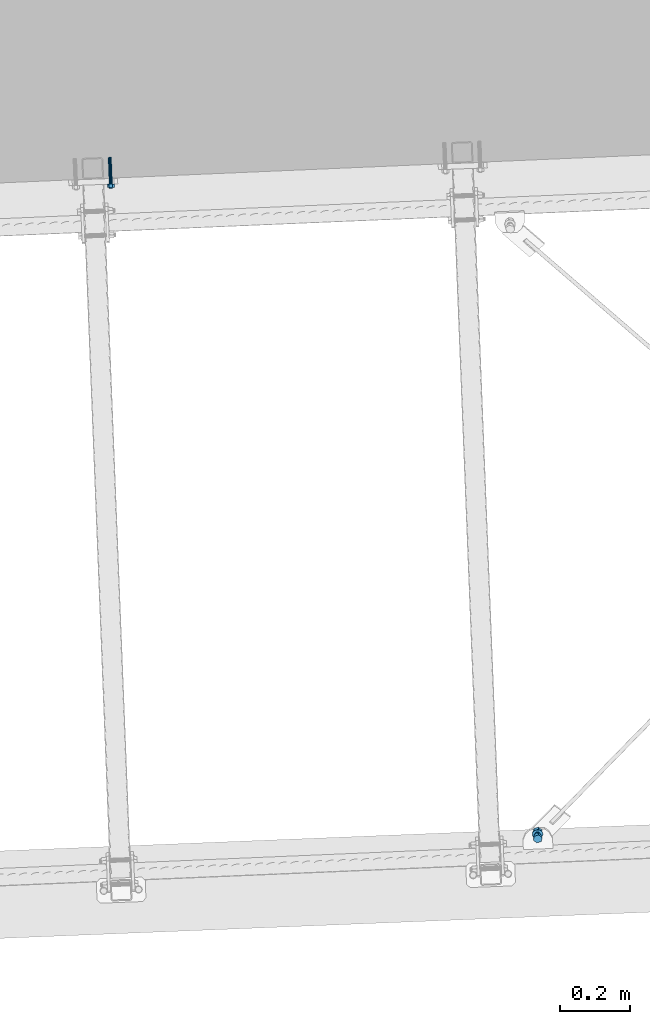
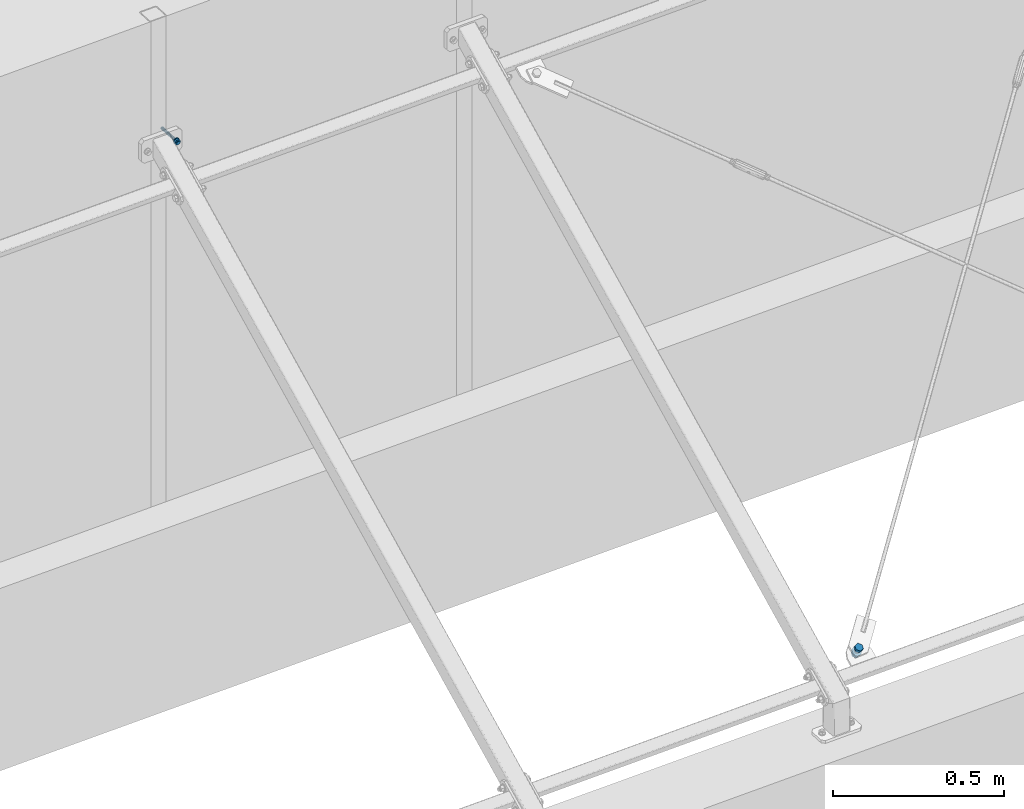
# One storey, part 265 of 288: 2 mechanical fasteners.
"""IFC2X3 building model written with IfcOpenShell, lengths in millimetres."""

import ifcopenshell
import ifcopenshell.guid

model = None  # the IFC model being written
_history = None  # IfcOwnerHistory: only IFC2X3 demands one
_inside = {}  # id of a spatial element -> (the spatial element, [elements in it])
_under = {}  # id of a project, library or spatial element -> (it, [spatial elements below it])
_declared = {}  # id of a project -> (the project, [libraries it declares])
_typed = {}  # id of a type object -> (the type object, [elements of that type])
_made_of = {}  # id of a material, layer set ... -> (it, [elements and type objects made of it])


def new_model(schema):
    """Start an empty IFC model of exactly this schema.

    Asked for "IFC4X3", IfcOpenShell would pick the latest addendum, in which some entities
    have other attributes; the version numbers below select the first issue.
    IFC2X3 requires an IfcOwnerHistory on every rooted entity: one is made here for all.
    """
    global model, _history
    if schema == "IFC4X3":
        model = ifcopenshell.file(schema_version=(4, 3, 0, 0))
    else:
        model = ifcopenshell.file(schema=schema)
    _inside.clear()
    _under.clear()
    _declared.clear()
    _typed.clear()
    _made_of.clear()
    _history = None
    if model.schema == "IFC2X3":
        org = make("IfcOrganization", Name="unknown")
        user = make(
            "IfcPersonAndOrganization",
            ThePerson=make("IfcPerson", FamilyName="unknown"),
            TheOrganization=org,
        )
        app = make(
            "IfcApplication",
            ApplicationDeveloper=org,
            Version="unknown",
            ApplicationFullName="unknown",
            ApplicationIdentifier="unknown",
        )
        _history = make(
            "IfcOwnerHistory",
            OwningUser=user,
            OwningApplication=app,
            ChangeAction="ADDED",
            CreationDate=0,
        )
    return model


def make(cls, **values):
    """One entity of the class cls with the attributes given. An attribute that is None is left unset."""
    return model.create_entity(
        cls, **{name: value for name, value in values.items() if value is not None}
    )


def entity(cls, *values):
    """Any entity or typed value of the class cls, its attributes in the order of the schema. None: left unset."""
    e = model.create_entity(cls)
    for i, value in enumerate(values):
        if value is not None:
            e[i] = value
    return e


def rooted(cls, **values):
    """An entity with a GlobalId (a new one), such as an element, a storey or a relation."""
    return make(cls, GlobalId=ifcopenshell.guid.new(), OwnerHistory=_history, **values)


def si_unit(unit_type, name, prefix=None):
    """IfcSIUnit, for example si_unit("LENGTHUNIT", "METRE", prefix="MILLI")."""
    return make("IfcSIUnit", UnitType=unit_type, Prefix=prefix, Name=name)


def converted_unit(unit_type, name, factor, base, dimensions=None, offset=None):
    """IfcConversionBasedUnit, such as the inch: factor (a typed value) times the base unit."""
    return make(
        "IfcConversionBasedUnit"
        if offset is None
        else "IfcConversionBasedUnitWithOffset",
        ConversionOffset=offset,
        Dimensions=None
        if dimensions is None
        else entity("IfcDimensionalExponents", *dimensions),
        UnitType=unit_type,
        Name=name,
        ConversionFactor=make(
            "IfcMeasureWithUnit", ValueComponent=factor, UnitComponent=base
        ),
    )


def assignment(units):
    """IfcUnitAssignment: the units of a project."""
    return None if units is None else make("IfcUnitAssignment", Units=units)


def point(xyz):
    """IfcCartesianPoint."""
    return None if xyz is None else make("IfcCartesianPoint", Coordinates=xyz)


def direction(xyz):
    """IfcDirection."""
    return None if xyz is None else make("IfcDirection", DirectionRatios=xyz)


def frame(location, z_axis=None, x_axis=None):
    """IfcAxis2Placement3D, a coordinate frame: its origin and axes. An axis left out is left unset."""
    return make(
        "IfcAxis2Placement3D",
        Location=point(location),
        Axis=direction(z_axis),
        RefDirection=direction(x_axis),
    )


def origin_with_axes():
    """The frame at (0, 0, 0) with the z axis (0, 0, 1) and the x axis (1, 0, 0) written out."""
    return frame((0.0, 0.0, 0.0), z_axis=(0.0, 0.0, 1.0), x_axis=(1.0, 0.0, 0.0))


def place(relative_to, where):
    """IfcLocalPlacement: puts the frame where relative to a parent placement (None: the world)."""
    return make(
        "IfcLocalPlacement", PlacementRelTo=relative_to, RelativePlacement=where
    )


def context(
    kind, dimensions, precision=None, world=None, true_north=None, identifier=None
):
    """IfcGeometricRepresentationContext, for example the 3D "Model" context."""
    return make(
        "IfcGeometricRepresentationContext",
        ContextIdentifier=identifier,
        ContextType=kind,
        CoordinateSpaceDimension=dimensions,
        Precision=precision,
        WorldCoordinateSystem=world,
        TrueNorth=true_north,
    )


def project(units=None, contexts=None):
    """IfcProject with its units and contexts."""
    return rooted(
        "IfcProject",
        Name="project",
        RepresentationContexts=contexts,
        UnitsInContext=assignment(units),
    )


def spatial(cls, under=None, at=None, **own):
    """A site, building, storey or space (cls), placed at a placement, below another one or the project."""
    s = rooted(cls, ObjectPlacement=at, **own)
    if under is not None:
        _under.setdefault(under.id(), (under, []))[1].append(s)
    return s


def faces_of(points, faces, orient=None, outer=None):
    """IfcFace entities. A face is a list of loops; a loop is a list of indices into points, from 0.

    orient and outer hold one flag for each loop. By default every Orientation is true, the
    first loop of a face is its IfcFaceOuterBound and the others are IfcFaceBound.
    """
    made = []
    for i, loops in enumerate(faces):
        bounds = []
        for j, loop in enumerate(loops):
            is_outer = j == 0 if outer is None else outer[i][j]
            bounds.append(
                make(
                    "IfcFaceOuterBound" if is_outer else "IfcFaceBound",
                    Bound=make("IfcPolyLoop", Polygon=[points[k] for k in loop]),
                    Orientation=True if orient is None else orient[i][j],
                )
            )
        made.append(make("IfcFace", Bounds=bounds))
    return made


def faceted_brep(points, faces, orient=None, outer=None, voids=None):
    """IfcFacetedBrep: a solid bounded by flat faces; with voids (closed shells), ...WithVoids."""
    shared = [point(p) for p in points]
    hull = make("IfcClosedShell", CfsFaces=faces_of(shared, faces, orient, outer))
    if voids is None:
        return make("IfcFacetedBrep", Outer=hull)
    return make(
        "IfcFacetedBrepWithVoids",
        Outer=hull,
        Voids=[
            make(cls, CfsFaces=faces_of(shared, fs, o, b)) for cls, fs, o, b in voids
        ],
    )


def shape(context_of_items, identifier, shape_type, items):
    """IfcShapeRepresentation: the items that make up one representation, for example the "Body"."""
    return make(
        "IfcShapeRepresentation",
        ContextOfItems=context_of_items,
        RepresentationIdentifier=identifier,
        RepresentationType=shape_type,
        Items=items,
    )


def made_of(thing, what):
    """Note that an element or type object is made of a material, layer set ...; save() writes the relation."""
    if what is not None:
        _made_of.setdefault(what.id(), (what, []))[1].append(thing)
    return thing


def element(
    cls,
    number,
    at=None,
    inside=None,
    cuts=None,
    type_object=None,
    material=None,
    context=None,
    identifier="Body",
    shape_type=None,
    held_by="IfcProductDefinitionShape",
    body=None,
    shapes=None,
    **own,
):
    """One element of the class cls, such as IfcWall. Its Tag is "e" and its number.

    at: its placement. inside: the storey or other place that contains it. cuts: it is an
    opening in that element (IfcRelVoidsElement). A single representation is given by context,
    identifier, shape_type and body (its items); several are given by shapes. held_by: the class
    of the entity that holds the representations. save() writes the other relations.
    """
    e = rooted(cls, Tag="e%d" % number, ObjectPlacement=at, **own)
    if body is not None:
        shapes = [shape(context, identifier, shape_type, body)]
    if shapes is not None:
        e.Representation = make(held_by, Representations=shapes)
    if inside is not None:
        _inside.setdefault(inside.id(), (inside, []))[1].append(e)
    if cuts is not None:
        rooted(
            "IfcRelVoidsElement", RelatingBuildingElement=cuts, RelatedOpeningElement=e
        )
    if type_object is not None:
        _typed.setdefault(type_object.id(), (type_object, []))[1].append(e)
    return made_of(e, material)


def aggregate(whole, parts):
    """IfcRelAggregates: a whole, such as a stair, and the parts it consists of."""
    return rooted("IfcRelAggregates", RelatingObject=whole, RelatedObjects=parts)


def save(model, path):
    """Write the relations noted so far, then the file.

    IfcRelAggregates (storeys below a building ...), IfcRelContainedInSpatialStructure (elements
    in a storey), IfcRelDefinesByType, IfcRelAssociatesMaterial and IfcRelDeclares: one each for
    every whole, place, type object, material and project.
    """
    for whole, parts in _under.values():
        aggregate(whole, parts)
    for where, things in _inside.values():
        rooted(
            "IfcRelContainedInSpatialStructure",
            RelatedElements=things,
            RelatingStructure=where,
        )
    for kind, things in _typed.values():
        rooted("IfcRelDefinesByType", RelatedObjects=things, RelatingType=kind)
    for what, things in _made_of.values():
        rooted("IfcRelAssociatesMaterial", RelatedObjects=things, RelatingMaterial=what)
    for by, libraries in _declared.values():
        rooted("IfcRelDeclares", RelatingContext=by, RelatedDefinitions=libraries)
    model.write(path)


model = new_model("IFC2X3")

# Units and contexts
model_context = context("Model", 3, precision=1e-09, world=origin_with_axes())
ifc_project = project(units=[si_unit("LENGTHUNIT", "METRE", prefix="MILLI"), si_unit("AREAUNIT", "SQUARE_METRE"), si_unit("VOLUMEUNIT", "CUBIC_METRE"), converted_unit("PLANEANGLEUNIT", "DEGREE", entity("IfcPlaneAngleMeasure", 0.01745329), si_unit("PLANEANGLEUNIT", "RADIAN"), dimensions=[0, 0, 0, 0, 0, 0, 0])], contexts=[model_context])

# Site, building, storey
site_placement = place(None, origin_with_axes())
site = spatial("IfcSite", under=ifc_project, at=site_placement, Name="Remont ?wietlik?w nad MC w NCPP w Opolu", CompositionType="ELEMENT")
building_placement = place(site_placement, origin_with_axes())
building = spatial("IfcBuilding", under=site, at=building_placement, Name="Konstrukcja 1", CompositionType="ELEMENT")
storey_placement = place(building_placement, origin_with_axes())
storey = spatial("IfcBuildingStorey", under=building, at=storey_placement, Name="Default Storey", CompositionType="ELEMENT", Elevation=0.0)

# Mechanical fasteners
mechanical_fastener_1_placement = place(None, origin_with_axes())
element("IfcMechanicalFastener", 1, at=mechanical_fastener_1_placement, inside=storey, ObjectType="Anchor_Bolt", NominalDiameter=10.0, NominalLength=90.0, context=model_context, shape_type="Brep", body=[
    faceted_brep([(5574.436082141, 15772.694385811, 1298.01242133), (5574.357295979, 15774.692833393, 1298.01242133), (5572.310437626, 15774.6121387, 1297.810666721), (5572.389223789, 15772.613691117, 1297.810666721), (5570.342238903, 15774.534545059, 1297.213156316), (5570.421025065, 15772.536097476, 1297.213156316), (5568.528336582, 15774.46303435, 1296.242852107), (5568.607122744, 15772.464586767, 1296.242852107), (5566.938437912, 15774.40035469, 1294.937042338), (5567.017224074, 15772.401907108, 1294.937042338), (5565.633641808, 15774.348914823, 1293.345908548), (5565.71242797, 15772.350467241, 1293.345908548), (5564.664090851, 15774.310691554, 1291.530597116), (5564.742877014, 15772.312243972, 1291.530597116), (5564.067044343, 15774.287153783, 1289.560869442), (5564.145830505, 15772.2887062, 1289.560869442), (5563.865446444, 15774.279206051, 1287.512421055), (5563.944232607, 15772.280758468, 1287.512421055), (5564.06704445, 15774.287153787, 1285.463972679), (5564.145830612, 15772.288706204, 1285.463972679), (5564.664091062, 15774.310691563, 1283.494245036), (5564.742877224, 15772.31224398, 1283.494245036), (5565.633642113, 15774.348914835, 1281.678933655), (5565.712428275, 15772.350467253, 1281.678933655), (5566.9384383, 15774.400354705, 1280.087799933), (5567.017224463, 15772.401907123, 1280.087799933), (5568.528337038, 15774.463034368, 1278.781990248), (5568.607123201, 15772.464586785, 1278.781990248), (5570.34223941, 15774.534545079, 1277.811686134), (5570.421025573, 15772.536097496, 1277.811686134), (5572.310438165, 15774.612138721, 1277.214175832), (5572.389224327, 15772.613691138, 1277.214175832), (5574.357296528, 15774.692833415, 1277.01242133), (5574.43608269, 15772.694385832, 1277.01242133), (5576.40415488, 15774.773528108, 1277.214175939), (5576.482941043, 15772.775080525, 1277.214175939), (5578.372353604, 15774.851121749, 1277.811686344), (5578.451139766, 15772.852674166, 1277.811686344), (5580.186255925, 15774.922632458, 1278.781990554), (5580.265042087, 15772.924184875, 1278.781990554), (5581.776154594, 15774.985312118, 1280.087800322), (5581.854940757, 15772.986864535, 1280.087800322), (5583.080950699, 15775.036751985, 1281.678934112), (5583.159736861, 15773.038304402, 1281.678934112), (5584.050501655, 15775.074975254, 1283.494245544), (5584.129287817, 15773.076527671, 1283.494245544), (5584.647548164, 15775.098513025, 1285.463973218), (5584.726334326, 15773.100065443, 1285.463973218), (5584.849146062, 15775.106460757, 1287.512421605), (5584.927932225, 15773.108013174, 1287.512421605), (5584.647548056, 15775.098513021, 1289.560869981), (5584.726334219, 15773.100065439, 1289.560869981), (5584.050501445, 15775.074975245, 1291.530597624), (5584.129287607, 15773.076527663, 1291.530597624), (5583.080950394, 15775.036751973, 1293.345909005), (5583.159736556, 15773.03830439, 1293.345909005), (5581.776154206, 15774.985312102, 1294.937042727), (5581.854940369, 15772.98686452, 1294.937042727), (5580.186255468, 15774.92263244, 1296.242852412), (5580.26504163, 15772.924184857, 1296.242852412), (5578.372353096, 15774.851121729, 1297.213156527), (5578.451139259, 15772.852674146, 1297.213156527), (5576.404154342, 15774.773528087, 1297.810666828), (5576.482940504, 15772.775080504, 1297.810666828)], [[[0, 1, 2, 3]], [[3, 2, 4, 5]], [[5, 4, 6, 7]], [[7, 6, 8, 9]], [[9, 8, 10, 11]], [[11, 10, 12, 13]], [[13, 12, 14, 15]], [[15, 14, 16, 17]], [[17, 16, 18, 19]], [[19, 18, 20, 21]], [[21, 20, 22, 23]], [[23, 22, 24, 25]], [[25, 24, 26, 27]], [[27, 26, 28, 29]], [[29, 28, 30, 31]], [[31, 30, 32, 33]], [[33, 32, 34, 35]], [[35, 34, 36, 37]], [[37, 36, 38, 39]], [[39, 38, 40, 41]], [[41, 40, 42, 43]], [[43, 42, 44, 45]], [[45, 44, 46, 47]], [[47, 46, 48, 49]], [[49, 48, 50, 51]], [[51, 50, 52, 53]], [[53, 52, 54, 55]], [[55, 54, 56, 57]], [[57, 56, 58, 59]], [[59, 58, 60, 61]], [[61, 60, 62, 63]], [[63, 62, 1, 0]], [[0, 3, 5, 7, 9, 11, 13, 15, 17, 19, 21, 23, 25, 27, 29, 31, 33, 35, 37, 39, 41, 43, 45, 47, 49, 51, 53, 55, 57, 59, 61, 63]], [[1, 62, 60, 58, 56, 54, 52, 50, 48, 46, 44, 42, 40, 38, 36, 34, 32, 30, 28, 26, 24, 22, 20, 18, 16, 14, 12, 10, 8, 6, 4, 2]]]),
    faceted_brep([(5569.53988606, 15772.501359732, 1279.025372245), (5569.85503071, 15764.507569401, 1279.025372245), (5564.95883391, 15764.314543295, 1287.512421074), (5564.643689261, 15772.308333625, 1287.512421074), (5569.855030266, 15764.507569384, 1295.999470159), (5569.539885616, 15772.501359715, 1295.999470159), (5579.647423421, 15764.89362158, 1295.999470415), (5579.332278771, 15772.887411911, 1295.999470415), (5584.54362022, 15765.086647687, 1287.512421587), (5584.228475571, 15773.080438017, 1287.512421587), (5579.647423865, 15764.893621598, 1279.025372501), (5579.332279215, 15772.887411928, 1279.025372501)], [[[0, 1, 2, 3]], [[3, 2, 4, 5]], [[5, 4, 6, 7]], [[7, 6, 8, 9]], [[9, 8, 10, 11]], [[11, 10, 1, 0]], [[4, 2, 1, 10, 8, 6]], [[0, 3, 5, 7, 9, 11]]]),
    faceted_brep([(5574.869406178, 15761.702924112, 1292.51242133), (5574.751226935, 15764.700595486, 1292.51242133), (5572.839294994, 15764.625220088, 1292.131818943), (5572.957474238, 15761.627548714, 1292.131818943), (5571.218437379, 15764.561319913, 1291.047955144), (5571.336616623, 15761.563648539, 1291.047955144), (5570.135414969, 15764.518623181, 1289.425838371), (5570.253594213, 15761.520951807, 1289.425838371), (5569.755108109, 15764.503630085, 1287.512421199), (5569.873287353, 15761.505958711, 1287.512421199), (5570.135415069, 15764.518623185, 1285.599004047), (5570.253594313, 15761.520951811, 1285.599004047), (5571.218437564, 15764.56131992, 1283.976887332), (5571.336616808, 15761.563648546, 1283.976887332), (5572.839295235, 15764.625220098, 1282.893023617), (5572.957474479, 15761.627548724, 1282.893023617), (5574.751227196, 15764.700595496, 1282.51242133), (5574.86940644, 15761.702924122, 1282.51242133), (5576.663159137, 15764.775970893, 1282.893023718), (5576.781338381, 15761.778299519, 1282.893023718), (5578.284016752, 15764.839871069, 1283.976887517), (5578.402195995, 15761.842199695, 1283.976887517), (5579.367039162, 15764.8825678, 1285.599004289), (5579.485218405, 15761.884896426, 1285.599004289), (5579.747346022, 15764.897560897, 1287.512421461), (5579.865525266, 15761.899889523, 1287.512421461), (5579.367039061, 15764.882567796, 1289.425838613), (5579.485218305, 15761.884896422, 1289.425838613), (5578.284016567, 15764.839871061, 1291.047955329), (5578.402195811, 15761.842199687, 1291.047955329), (5576.663158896, 15764.775970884, 1292.131819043), (5576.781338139, 15761.77829951, 1292.131819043)], [[[0, 1, 2, 3]], [[3, 2, 4, 5]], [[5, 4, 6, 7]], [[7, 6, 8, 9]], [[9, 8, 10, 11]], [[11, 10, 12, 13]], [[13, 12, 14, 15]], [[15, 14, 16, 17]], [[17, 16, 18, 19]], [[19, 18, 20, 21]], [[21, 20, 22, 23]], [[23, 22, 24, 25]], [[25, 24, 26, 27]], [[27, 26, 28, 29]], [[29, 28, 30, 31]], [[31, 30, 1, 0]], [[0, 3, 5, 7, 9, 11, 13, 15, 17, 19, 21, 23, 25, 27, 29, 31]], [[1, 30, 28, 26, 24, 22, 20, 18, 16, 14, 12, 10, 8, 6, 4, 2]]]),
    faceted_brep([(5574.357296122, 15774.692833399, 1292.51242133), (5573.727006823, 15790.68041406, 1292.51242133), (5571.815074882, 15790.605038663, 1292.131818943), (5572.445364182, 15774.617458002, 1292.131818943), (5570.194217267, 15790.541138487, 1291.047955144), (5570.824506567, 15774.553557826, 1291.047955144), (5569.111194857, 15790.498441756, 1289.425838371), (5569.741484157, 15774.510861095, 1289.425838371), (5568.730887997, 15790.483448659, 1287.512421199), (5569.361177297, 15774.495867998, 1287.512421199), (5569.111194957, 15790.49844176, 1285.599004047), (5569.741484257, 15774.510861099, 1285.599004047), (5570.194217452, 15790.541138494, 1283.976887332), (5570.824506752, 15774.553557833, 1283.976887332), (5571.815075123, 15790.605038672, 1282.893023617), (5572.445364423, 15774.617458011, 1282.893023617), (5573.727007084, 15790.68041407, 1282.51242133), (5574.357296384, 15774.692833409, 1282.51242133), (5575.638939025, 15790.755789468, 1282.893023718), (5576.269228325, 15774.768208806, 1282.893023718), (5577.25979664, 15790.819689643, 1283.976887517), (5577.890085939, 15774.832108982, 1283.976887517), (5578.34281905, 15790.862386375, 1285.599004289), (5578.973108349, 15774.874805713, 1285.599004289), (5578.72312591, 15790.877379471, 1287.512421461), (5579.35341521, 15774.88979881, 1287.512421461), (5578.342818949, 15790.862386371, 1289.425838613), (5578.973108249, 15774.874805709, 1289.425838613), (5577.259796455, 15790.819689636, 1291.047955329), (5577.890085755, 15774.832108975, 1291.047955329), (5575.638938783, 15790.755789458, 1292.131819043), (5576.269228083, 15774.768208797, 1292.131819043)], [[[0, 1, 2, 3]], [[3, 2, 4, 5]], [[5, 4, 6, 7]], [[7, 6, 8, 9]], [[9, 8, 10, 11]], [[11, 10, 12, 13]], [[13, 12, 14, 15]], [[15, 14, 16, 17]], [[17, 16, 18, 19]], [[19, 18, 20, 21]], [[21, 20, 22, 23]], [[23, 22, 24, 25]], [[25, 24, 26, 27]], [[27, 26, 28, 29]], [[29, 28, 30, 31]], [[31, 30, 1, 0]], [[0, 3, 5, 7, 9, 11, 13, 15, 17, 19, 21, 23, 25, 27, 29, 31]], [[1, 30, 28, 26, 24, 22, 20, 18, 16, 14, 12, 10, 8, 6, 4, 2]]]),
    faceted_brep([(5573.727006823, 15790.68041406, 1292.51242133), (5573.687613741, 15791.679637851, 1292.51242133), (5572.712919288, 15791.641211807, 1292.416347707), (5572.752312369, 15790.641988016, 1292.416347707), (5571.775681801, 15791.604262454, 1292.131818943), (5571.815074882, 15790.605038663, 1292.131818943), (5570.911918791, 15791.570209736, 1291.669769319), (5570.951311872, 15790.570985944, 1291.669769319), (5570.154824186, 15791.540362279, 1291.047955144), (5570.194217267, 15790.541138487, 1291.047955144), (5569.533492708, 15791.515867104, 1290.290272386), (5569.572885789, 15790.516643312, 1290.290272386), (5569.071801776, 15791.497665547, 1289.425838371), (5569.111194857, 15790.498441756, 1289.425838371), (5568.787493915, 15791.486457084, 1288.487872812), (5568.826886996, 15790.487233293, 1288.487872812), (5568.691494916, 15791.48267245, 1287.512421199), (5568.730887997, 15790.483448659, 1287.512421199), (5568.787493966, 15791.486457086, 1286.536969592), (5568.826887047, 15790.487233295, 1286.536969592), (5569.071801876, 15791.497665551, 1285.599004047), (5569.111194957, 15790.49844176, 1285.599004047), (5569.533492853, 15791.515867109, 1284.734570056), (5569.572885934, 15790.516643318, 1284.734570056), (5570.154824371, 15791.540362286, 1283.976887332), (5570.194217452, 15790.541138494, 1283.976887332), (5570.911919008, 15791.570209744, 1283.355073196), (5570.951312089, 15790.570985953, 1283.355073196), (5571.775682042, 15791.604262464, 1282.893023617), (5571.815075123, 15790.605038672, 1282.893023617), (5572.712919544, 15791.641211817, 1282.608494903), (5572.752312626, 15790.641988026, 1282.608494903), (5573.687614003, 15791.679637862, 1282.51242133), (5573.727007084, 15790.68041407, 1282.51242133), (5574.662308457, 15791.718063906, 1282.608494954), (5574.701701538, 15790.718840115, 1282.608494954), (5575.599545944, 15791.755013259, 1282.893023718), (5575.638939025, 15790.755789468, 1282.893023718), (5576.463308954, 15791.789065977, 1283.355073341), (5576.502702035, 15790.789842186, 1283.355073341), (5577.220403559, 15791.818913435, 1283.976887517), (5577.25979664, 15790.819689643, 1283.976887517), (5577.841735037, 15791.843408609, 1284.734570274), (5577.881128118, 15790.844184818, 1284.734570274), (5578.303425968, 15791.861610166, 1285.599004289), (5578.34281905, 15790.862386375, 1285.599004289), (5578.58773383, 15791.872818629, 1286.536969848), (5578.627126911, 15790.873594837, 1286.536969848), (5578.683732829, 15791.876603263, 1287.512421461), (5578.72312591, 15790.877379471, 1287.512421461), (5578.587733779, 15791.872818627, 1288.487873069), (5578.62712686, 15790.873594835, 1288.487873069), (5578.303425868, 15791.861610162, 1289.425838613), (5578.342818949, 15790.862386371, 1289.425838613), (5577.841734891, 15791.843408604, 1290.290272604), (5577.881127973, 15790.844184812, 1290.290272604), (5577.220403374, 15791.818913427, 1291.047955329), (5577.259796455, 15790.819689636, 1291.047955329), (5576.463308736, 15791.789065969, 1291.669769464), (5576.502701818, 15790.789842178, 1291.669769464), (5575.599545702, 15791.755013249, 1292.131819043), (5575.638938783, 15790.755789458, 1292.131819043), (5574.6623082, 15791.718063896, 1292.416347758), (5574.701701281, 15790.718840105, 1292.416347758)], [[[0, 1, 2, 3]], [[3, 2, 4, 5]], [[5, 4, 6, 7]], [[7, 6, 8, 9]], [[9, 8, 10, 11]], [[11, 10, 12, 13]], [[13, 12, 14, 15]], [[15, 14, 16, 17]], [[17, 16, 18, 19]], [[19, 18, 20, 21]], [[21, 20, 22, 23]], [[23, 22, 24, 25]], [[25, 24, 26, 27]], [[27, 26, 28, 29]], [[29, 28, 30, 31]], [[31, 30, 32, 33]], [[33, 32, 34, 35]], [[35, 34, 36, 37]], [[37, 36, 38, 39]], [[39, 38, 40, 41]], [[41, 40, 42, 43]], [[43, 42, 44, 45]], [[45, 44, 46, 47]], [[47, 46, 48, 49]], [[49, 48, 50, 51]], [[51, 50, 52, 53]], [[53, 52, 54, 55]], [[55, 54, 56, 57]], [[57, 56, 58, 59]], [[59, 58, 60, 61]], [[61, 60, 62, 63]], [[63, 62, 1, 0]], [[0, 3, 5, 7, 9, 11, 13, 15, 17, 19, 21, 23, 25, 27, 29, 31, 33, 35, 37, 39, 41, 43, 45, 47, 49, 51, 53, 55, 57, 59, 61, 63]], [[1, 62, 60, 58, 56, 54, 52, 50, 48, 46, 44, 42, 40, 38, 36, 34, 32, 30, 28, 26, 24, 22, 20, 18, 16, 14, 12, 10, 8, 6, 4, 2]]]),
    faceted_brep([(5573.687613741, 15791.679637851, 1292.51242133), (5571.324028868, 15851.633065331, 1292.51242133), (5569.412096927, 15851.557689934, 1292.131818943), (5571.775681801, 15791.604262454, 1292.131818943), (5567.791239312, 15851.493789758, 1291.047955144), (5570.154824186, 15791.540362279, 1291.047955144), (5566.708216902, 15851.451093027, 1289.425838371), (5569.071801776, 15791.497665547, 1289.425838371), (5566.327910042, 15851.43609993, 1287.512421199), (5568.691494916, 15791.48267245, 1287.512421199), (5566.708217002, 15851.451093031, 1285.599004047), (5569.071801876, 15791.497665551, 1285.599004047), (5567.791239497, 15851.493789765, 1283.976887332), (5570.154824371, 15791.540362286, 1283.976887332), (5569.412097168, 15851.557689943, 1282.893023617), (5571.775682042, 15791.604262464, 1282.893023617), (5571.324029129, 15851.633065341, 1282.51242133), (5573.687614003, 15791.679637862, 1282.51242133), (5573.23596107, 15851.708440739, 1282.893023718), (5575.599545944, 15791.755013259, 1282.893023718), (5574.856818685, 15851.772340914, 1283.976887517), (5577.220403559, 15791.818913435, 1283.976887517), (5575.939841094, 15851.815037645, 1285.599004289), (5578.303425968, 15791.861610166, 1285.599004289), (5576.320147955, 15851.830030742, 1287.512421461), (5578.683732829, 15791.876603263, 1287.512421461), (5575.939840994, 15851.815037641, 1289.425838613), (5578.303425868, 15791.861610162, 1289.425838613), (5574.8568185, 15851.772340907, 1291.047955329), (5577.220403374, 15791.818913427, 1291.047955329), (5573.235960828, 15851.708440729, 1292.131819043), (5575.599545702, 15791.755013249, 1292.131819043)], [[[0, 1, 2, 3]], [[3, 2, 4, 5]], [[5, 4, 6, 7]], [[7, 6, 8, 9]], [[9, 8, 10, 11]], [[11, 10, 12, 13]], [[13, 12, 14, 15]], [[15, 14, 16, 17]], [[17, 16, 18, 19]], [[19, 18, 20, 21]], [[21, 20, 22, 23]], [[23, 22, 24, 25]], [[25, 24, 26, 27]], [[27, 26, 28, 29]], [[29, 28, 30, 31]], [[31, 30, 1, 0]], [[0, 3, 5, 7, 9, 11, 13, 15, 17, 19, 21, 23, 25, 27, 29, 31]], [[1, 30, 28, 26, 24, 22, 20, 18, 16, 14, 12, 10, 8, 6, 4, 2]]]),
])
mechanical_fastener_2_placement = place(None, origin_with_axes())
element("IfcMechanicalFastener", 2, at=mechanical_fastener_2_placement, inside=storey, ObjectType="Bolt#1", NominalDiameter=16.0, NominalLength=40.0, context=model_context, shape_type="Brep", body=[
    faceted_brep([(6807.662391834, 13911.359470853, 184.277534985), (6807.878341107, 13906.324333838, 192.9147082), (6805.446192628, 13894.935700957, 186.336386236), (6805.230243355, 13899.970837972, 177.69921302), (6792.842893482, 13890.937608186, 184.320764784), (6792.626944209, 13895.972745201, 175.683591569), (6782.671742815, 13898.328148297, 188.883465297), (6782.455793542, 13903.363285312, 180.246292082), (6785.103891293, 13909.716781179, 195.461787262), (6784.887942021, 13914.751918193, 186.824614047), (6797.707190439, 13913.714873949, 197.477408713), (6797.491241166, 13918.750010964, 188.840235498)], [[[0, 1, 2, 3]], [[3, 2, 4, 5]], [[5, 4, 6, 7]], [[7, 6, 8, 9]], [[9, 8, 10, 11]], [[11, 10, 1, 0]], [[4, 2, 1, 10, 8, 6]], [[0, 3, 5, 7, 9, 11]]]),
    faceted_brep([(6789.866886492, 13902.047864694, 179.294158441), (6789.521367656, 13910.104083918, 165.474681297), (6792.244723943, 13908.816895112, 164.656209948), (6792.590242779, 13900.760675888, 178.475687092), (6795.343940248, 13908.534603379, 164.414157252), (6795.689459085, 13900.478384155, 178.233634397), (6798.347188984, 13909.300185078, 164.785373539), (6798.692707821, 13901.243965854, 178.604850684), (6800.797252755, 13910.997087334, 165.713344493), (6801.142771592, 13902.94086811, 179.532821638), (6802.321131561, 13913.366972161, 167.056794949), (6802.666650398, 13905.310752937, 180.876272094), (6802.686828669, 13916.049046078, 168.611196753), (6803.032347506, 13907.992826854, 182.430673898), (6801.838670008, 13918.634987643, 170.139906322), (6802.184188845, 13910.578768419, 183.959383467), (6799.905780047, 13920.731110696, 171.410191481), (6800.251298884, 13912.674891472, 185.229668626), (6797.18242376, 13922.018299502, 172.22866283), (6797.527942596, 13913.962080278, 186.048139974), (6794.083207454, 13922.300591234, 172.470715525), (6794.428726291, 13914.24437201, 186.29019267), (6791.079958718, 13921.535009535, 172.099499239), (6791.425477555, 13913.478790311, 185.918976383), (6788.629894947, 13919.838107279, 171.171528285), (6788.975413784, 13911.781888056, 184.991005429), (6787.106016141, 13917.468222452, 169.828077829), (6787.451534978, 13909.412003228, 183.647554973), (6786.740319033, 13914.786148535, 168.273676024), (6787.08583787, 13906.729929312, 182.093153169), (6787.588477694, 13912.20020697, 166.744966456), (6787.933996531, 13904.143987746, 180.5644436)], [[[0, 1, 2, 3]], [[3, 2, 4, 5]], [[5, 4, 6, 7]], [[7, 6, 8, 9]], [[9, 8, 10, 11]], [[11, 10, 12, 13]], [[13, 12, 14, 15]], [[15, 14, 16, 17]], [[17, 16, 18, 19]], [[19, 18, 20, 21]], [[21, 20, 22, 23]], [[23, 22, 24, 25]], [[25, 24, 26, 27]], [[27, 26, 28, 29]], [[29, 28, 30, 31]], [[31, 30, 1, 0]], [[0, 3, 5, 7, 9, 11, 13, 15, 17, 19, 21, 23, 25, 27, 29, 31]], [[1, 30, 28, 26, 24, 22, 20, 18, 16, 14, 12, 10, 8, 6, 4, 2]]]),
    faceted_brep([(6784.978187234, 13905.454759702, 162.877895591), (6784.913402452, 13906.965300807, 160.286743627), (6787.32584057, 13905.539736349, 159.395378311), (6787.390625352, 13904.029195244, 161.986530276), (6790.019695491, 13904.551821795, 158.752109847), (6790.084480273, 13903.041280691, 161.343261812), (6792.891443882, 13904.039522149, 158.381658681), (6792.956228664, 13902.528981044, 160.972810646), (6795.830726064, 13904.022524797, 158.298261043), (6795.895510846, 13902.511983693, 160.889413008), (6798.72458707, 13904.501482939, 158.505121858), (6798.789371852, 13902.990941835, 161.096273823), (6801.461817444, 13905.457990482, 158.994291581), (6801.526602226, 13903.947449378, 161.585443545), (6803.937226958, 13906.855289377, 159.746971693), (6804.00201174, 13905.344748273, 162.338123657), (6806.055687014, 13908.639682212, 160.73423712), (6806.120471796, 13907.129141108, 163.325389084), (6807.735786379, 13910.74259577, 161.918147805), (6807.80057116, 13909.232054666, 164.509299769), (6808.912959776, 13913.083216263, 163.253206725), (6808.977744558, 13911.572675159, 165.844358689), (6809.541969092, 13915.571594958, 164.688108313), (6809.606753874, 13914.061053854, 167.279260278), (6809.598641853, 13918.112104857, 166.167710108), (6809.663426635, 13916.601563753, 168.758862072), (6809.080800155, 13920.607115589, 167.635151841), (6809.145584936, 13919.096574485, 170.226303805), (6808.008344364, 13922.960745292, 169.034040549), (6808.073129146, 13921.450204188, 171.625192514), (6806.422488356, 13925.082545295, 170.310617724), (6806.487273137, 13923.572004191, 172.901769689), (6804.384175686, 13926.890976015, 171.415825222), (6804.448960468, 13925.380434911, 174.006977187), (6801.971737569, 13928.316540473, 172.307190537), (6802.036522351, 13926.805999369, 174.898342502), (6799.277882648, 13929.304455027, 172.950459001), (6799.34266743, 13927.793913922, 175.541610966), (6796.406134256, 13929.816754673, 173.320910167), (6796.470919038, 13928.306213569, 175.912062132), (6793.466852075, 13929.833752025, 173.404307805), (6793.531636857, 13928.32321092, 175.99545977), (6790.572991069, 13929.354793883, 173.19744699), (6790.637775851, 13927.844252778, 175.788598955), (6787.835760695, 13928.39828634, 172.708277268), (6787.900545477, 13926.887745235, 175.299429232), (6785.36035118, 13927.000987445, 171.955597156), (6785.425135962, 13925.49044634, 174.54674912), (6783.241891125, 13925.21659461, 170.968331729), (6783.306675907, 13923.706053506, 173.559483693), (6781.56179176, 13923.113681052, 169.784421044), (6781.626576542, 13921.603139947, 172.375573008), (6780.384618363, 13920.773060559, 168.449362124), (6780.449403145, 13919.262519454, 171.040514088), (6779.755609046, 13918.284681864, 167.014460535), (6779.820393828, 13916.77414076, 169.6056125), (6779.698936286, 13915.744171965, 165.534858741), (6779.763721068, 13914.233630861, 168.126010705), (6780.216777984, 13913.249161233, 164.067417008), (6780.281562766, 13911.738620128, 166.658568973), (6781.289233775, 13910.89553153, 162.6685283), (6781.354018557, 13909.384990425, 165.259680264), (6782.875089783, 13908.773731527, 161.391951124), (6782.939874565, 13907.263190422, 163.983103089)], [[[0, 1, 2, 3]], [[3, 2, 4, 5]], [[5, 4, 6, 7]], [[7, 6, 8, 9]], [[9, 8, 10, 11]], [[11, 10, 12, 13]], [[13, 12, 14, 15]], [[15, 14, 16, 17]], [[17, 16, 18, 19]], [[19, 18, 20, 21]], [[21, 20, 22, 23]], [[23, 22, 24, 25]], [[25, 24, 26, 27]], [[27, 26, 28, 29]], [[29, 28, 30, 31]], [[31, 30, 32, 33]], [[33, 32, 34, 35]], [[35, 34, 36, 37]], [[37, 36, 38, 39]], [[39, 38, 40, 41]], [[41, 40, 42, 43]], [[43, 42, 44, 45]], [[45, 44, 46, 47]], [[47, 46, 48, 49]], [[49, 48, 50, 51]], [[51, 50, 52, 53]], [[53, 52, 54, 55]], [[55, 54, 56, 57]], [[57, 56, 58, 59]], [[59, 58, 60, 61]], [[61, 60, 62, 63]], [[63, 62, 1, 0]], [[0, 3, 5, 7, 9, 11, 13, 15, 17, 19, 21, 23, 25, 27, 29, 31, 33, 35, 37, 39, 41, 43, 45, 47, 49, 51, 53, 55, 57, 59, 61, 63]], [[1, 62, 60, 58, 56, 54, 52, 50, 48, 46, 44, 42, 40, 38, 36, 34, 32, 30, 28, 26, 24, 22, 20, 18, 16, 14, 12, 10, 8, 6, 4, 2]]]),
    faceted_brep([(6806.932483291, 13928.378233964, 155.083889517), (6807.252088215, 13920.926231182, 167.866905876), (6804.819939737, 13909.5375983, 161.288583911), (6804.500334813, 13916.989601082, 148.505567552), (6792.216640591, 13905.53950553, 159.27296246), (6791.897035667, 13912.991508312, 146.489946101), (6782.045489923, 13912.93004564, 163.835662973), (6781.725885, 13920.382048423, 151.052646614), (6784.477638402, 13924.318678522, 170.413984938), (6784.158033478, 13931.770681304, 157.630968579), (6797.080937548, 13928.316771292, 172.429606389), (6796.761332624, 13935.768774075, 159.64659003)], [[[0, 1, 2, 3]], [[3, 2, 4, 5]], [[5, 4, 6, 7]], [[7, 6, 8, 9]], [[9, 8, 10, 11]], [[11, 10, 1, 0]], [[4, 2, 1, 10, 8, 6]], [[0, 3, 5, 7, 9, 11]]]),
    faceted_brep([(6789.13697795, 13919.066627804, 150.100512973), (6789.003089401, 13922.188412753, 144.74546558), (6791.726445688, 13920.901223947, 143.926994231), (6791.860334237, 13917.779438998, 149.282041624), (6794.825661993, 13920.618932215, 143.684941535), (6794.959550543, 13917.497147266, 149.039988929), (6797.828910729, 13921.384513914, 144.056157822), (6797.962799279, 13918.262728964, 149.411205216), (6800.2789745, 13923.08141617, 144.984128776), (6800.412863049, 13919.95963122, 150.33917617), (6801.802853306, 13925.451300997, 146.327579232), (6801.936741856, 13922.329516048, 151.682626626), (6802.168550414, 13928.133374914, 147.881981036), (6802.302438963, 13925.011589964, 153.23702843), (6801.320391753, 13930.719316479, 149.410690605), (6801.454280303, 13927.59753153, 154.765737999), (6799.387501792, 13932.815439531, 150.680975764), (6799.521390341, 13929.693654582, 156.036023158), (6796.664145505, 13934.102628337, 151.499447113), (6796.798034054, 13930.980843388, 156.854494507), (6793.564929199, 13934.38492007, 151.741499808), (6793.698817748, 13931.26313512, 157.096547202), (6790.561680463, 13933.619338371, 151.370283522), (6790.695569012, 13930.497553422, 156.725330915), (6788.111616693, 13931.922436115, 150.442312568), (6788.245505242, 13928.800651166, 155.797359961), (6786.587737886, 13929.552551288, 149.098862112), (6786.721626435, 13926.430766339, 154.453909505), (6786.222040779, 13926.870477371, 147.544460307), (6786.355929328, 13923.748692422, 152.899507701), (6787.070199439, 13924.284535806, 146.015750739), (6787.204087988, 13921.162750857, 151.370798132)], [[[0, 1, 2, 3]], [[3, 2, 4, 5]], [[5, 4, 6, 7]], [[7, 6, 8, 9]], [[9, 8, 10, 11]], [[11, 10, 12, 13]], [[13, 12, 14, 15]], [[15, 14, 16, 17]], [[17, 16, 18, 19]], [[19, 18, 20, 21]], [[21, 20, 22, 23]], [[23, 22, 24, 25]], [[25, 24, 26, 27]], [[27, 26, 28, 29]], [[29, 28, 30, 31]], [[31, 30, 1, 0]], [[0, 3, 5, 7, 9, 11, 13, 15, 17, 19, 21, 23, 25, 27, 29, 31]], [[1, 30, 28, 26, 24, 22, 20, 18, 16, 14, 12, 10, 8, 6, 4, 2]]]),
])

save(model, "model.ifc")
